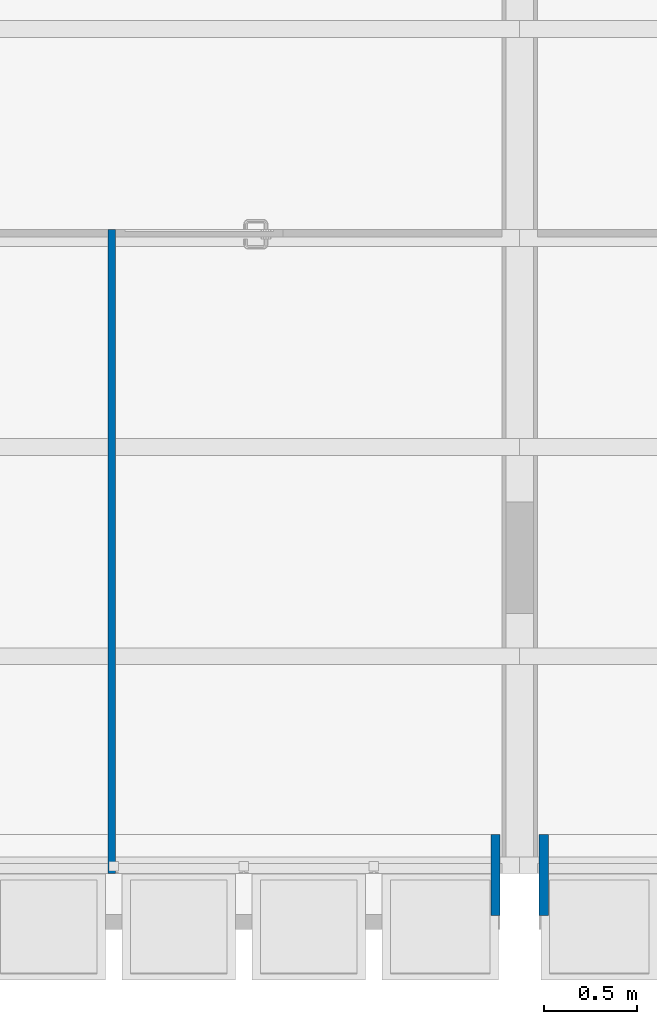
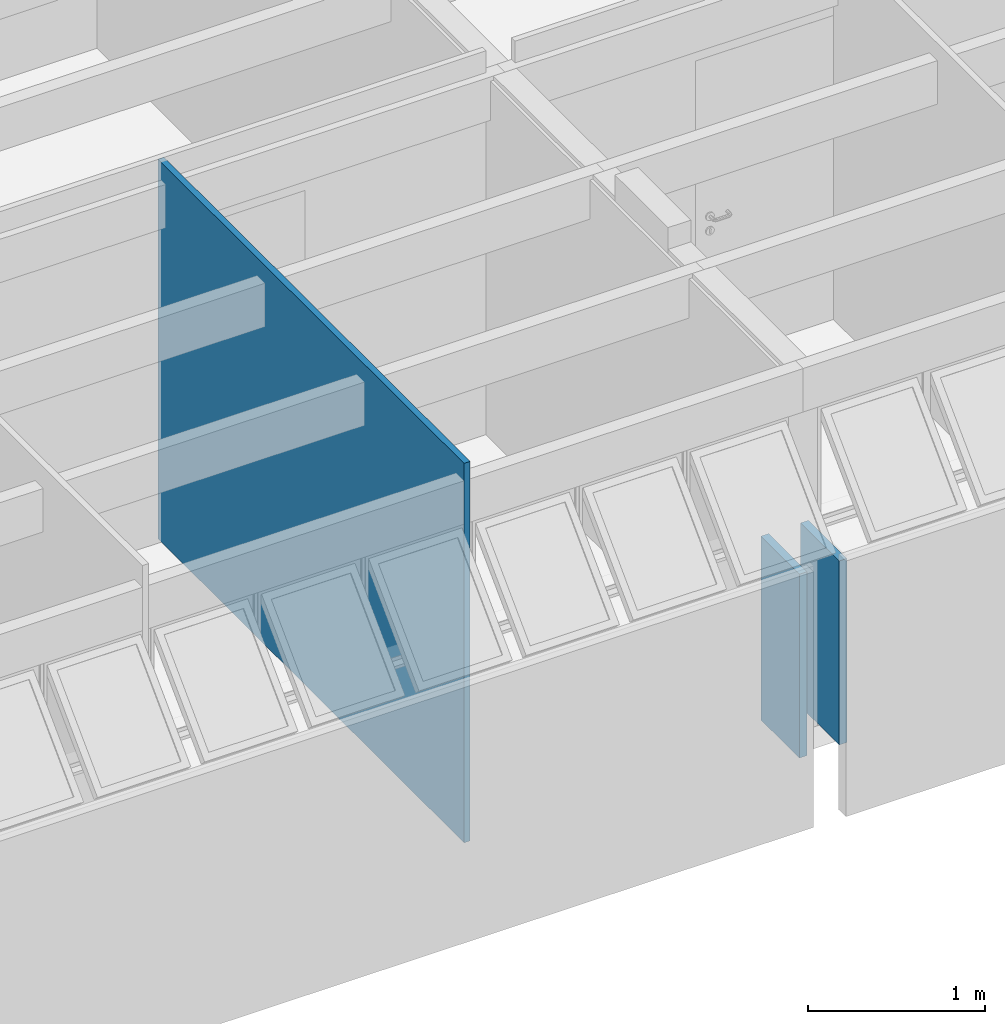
# One storey, part 18 of 41: 3 walls.
"""IFC4 building model written with IfcOpenShell, lengths in millimetres."""

from ifc_helpers import new_model, entity, si_unit, converted_unit, derived_unit, direction, frame, origin_with_axes, place, context, subcontext, project, spatial, line, indexed_curve, outline, extrude, material, layer, layer_set, layer_usage, type_object, element, save


model = new_model("IFC4")

# Units and contexts
model_context = context("Model", 3, precision=0.01, world=origin_with_axes(), true_north=direction((0.0, 1.0)))
body_context = subcontext(model_context, "Body", "Model", "MODEL_VIEW")
ifc_project = project(units=[si_unit("LENGTHUNIT", "METRE", prefix="MILLI"), si_unit("AREAUNIT", "SQUARE_METRE"), si_unit("VOLUMEUNIT", "CUBIC_METRE"), converted_unit("PLANEANGLEUNIT", "DEGREE", entity("IfcPlaneAngleMeasure", 0.0174532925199), si_unit("PLANEANGLEUNIT", "RADIAN"), dimensions=[0, 0, 0, 0, 0, 0, 0]), converted_unit("TIMEUNIT", "Year", entity("IfcTimeMeasure", 31556926.0), si_unit("TIMEUNIT", "SECOND"), dimensions=[0, 0, 1, 0, 0, 0, 0]), si_unit("MASSUNIT", "GRAM", prefix="KILO"), si_unit("THERMODYNAMICTEMPERATUREUNIT", "DEGREE_CELSIUS"), si_unit("LUMINOUSINTENSITYUNIT", "LUMEN"), si_unit("ENERGYUNIT", "JOULE", prefix="MEGA"), derived_unit("THERMALCONDUCTANCEUNIT", [(si_unit("POWERUNIT", "WATT"), 1), (si_unit("LENGTHUNIT", "METRE"), -1), (si_unit("THERMODYNAMICTEMPERATUREUNIT", "KELVIN"), -1)]), derived_unit("SPECIFICHEATCAPACITYUNIT", [(si_unit("ENERGYUNIT", "JOULE"), 1), (si_unit("MASSUNIT", "GRAM", prefix="KILO"), -1), (si_unit("THERMODYNAMICTEMPERATUREUNIT", "KELVIN"), -1)]), derived_unit("MASSDENSITYUNIT", [(si_unit("MASSUNIT", "GRAM", prefix="KILO"), 1), (si_unit("VOLUMEUNIT", "CUBIC_METRE"), -1)])], contexts=[model_context])

# Site, building, storey
site_placement = place(None, origin_with_axes())
site = spatial("IfcSite", under=ifc_project, at=site_placement, Name="Local", CompositionType="ELEMENT")
building_placement = place(site_placement, origin_with_axes())
building = spatial("IfcBuilding", under=site, at=building_placement, Name="Construção", CompositionType="ELEMENT")
storey_placement = place(building_placement, frame((0.0, 0.0, 2650.0), z_axis=(0.0, 0.0, 1.0), x_axis=(1.0, 0.0, 0.0)))
storey = spatial("IfcBuildingStorey", under=building, at=storey_placement, Name="Segundo Pavimento", CompositionType="ELEMENT", Elevation=2650.0)

# Walls
ifc_material_1 = material(Name="GENÉRICO - VEDAÇÃO EXTERNA")
ifc_layer_1 = layer(ifc_material_1, 40.0, ventilated="UNKNOWN", Name="GENÉRICO - VEDAÇÃO EXTERNA")
ifc_layer_set_1 = layer_set([ifc_layer_1], Name="GENÉRICO - VEDAÇÃO EXTERNA 40")
ifc_layer_usage_1 = layer_usage(ifc_layer_set_1, "AXIS2", "NEGATIVE", 0.0)
wall_type_1 = type_object("IfcWallType", Name="GENÉRICO - VEDAÇÃO EXTERNA 40", PredefinedType="NOTDEFINED")
wall_1_placement = place(storey_placement, frame((5210.0, 3765.0, 0.0), z_axis=(0.0, 0.0, 1.0), x_axis=(0.0, -1.0, 0.0)))
element("IfcWall", 1, at=wall_1_placement, inside=storey, type_object=wall_type_1, material=ifc_layer_usage_1, Name="APTO5-PAREDE-005", PredefinedType="NOTDEFINED", context=body_context, shape_type="SweptSolid", body=[
    extrude(outline(indexed_curve([(0.0, -40.0), (3465.0, -40.0), (3465.0, 0.0), (0.0, 0.0)], segments=[line(1, 2, 3, 4, 1)])), origin_with_axes(), (0.0, 0.0, 1.0), 2620.0),
])
ifc_material_2 = material(Name="Concreto Armado Moldado in Loco - Estrutural")
ifc_layer_2 = layer(ifc_material_2, 50.0, ventilated="UNKNOWN", Name="Concreto Armado Moldado in Loco - Estrutural")
ifc_layer_set_2 = layer_set([ifc_layer_2], Name="Concreto Armado Moldado in Loco - Estrutural 50")
ifc_layer_usage_2 = layer_usage(ifc_layer_set_2, "AXIS2", "NEGATIVE", 50.0)
wall_type_2 = type_object("IfcWallType", Name="Concreto Armado Moldado in Loco - Estrutural 50", PredefinedType="NOTDEFINED")
wall_2_placement = place(storey_placement, frame((7230.0, 510.0, 0.0), z_axis=(0.0, 0.0, 1.0), x_axis=(0.0, -1.0, 0.0)))
element("IfcWall", 2, at=wall_2_placement, inside=storey, type_object=wall_type_2, material=ifc_layer_usage_2, Name="APTO5-PAREDE-001", PredefinedType="NOTDEFINED", context=body_context, shape_type="SweptSolid", body=[
    extrude(outline(indexed_curve([(0.0, 0.0), (435.0, 0.0), (435.0, 50.0), (0.0, 50.0)], segments=[line(1, 2, 3, 4, 1)])), origin_with_axes(), (0.0, 0.0, 1.0), 1270.0),
])
ifc_layer_usage_3 = layer_usage(ifc_layer_set_2, "AXIS2", "POSITIVE", -50.0)
wall_3_placement = place(storey_placement, frame((7540.0, 510.0, 0.0), z_axis=(0.0, 0.0, 1.0), x_axis=(0.0, -1.0, 0.0)))
element("IfcWall", 3, at=wall_3_placement, inside=storey, type_object=wall_type_2, material=ifc_layer_usage_3, Name="APTO6-PAREDE-001", PredefinedType="NOTDEFINED", context=body_context, shape_type="SweptSolid", body=[
    extrude(outline(indexed_curve([(0.0, -50.0), (435.0, -50.0), (435.0, 0.0), (0.0, 0.0)], segments=[line(1, 2, 3, 4, 1)])), origin_with_axes(), (0.0, 0.0, 1.0), 1270.0),
])

save(model, "model.ifc")
